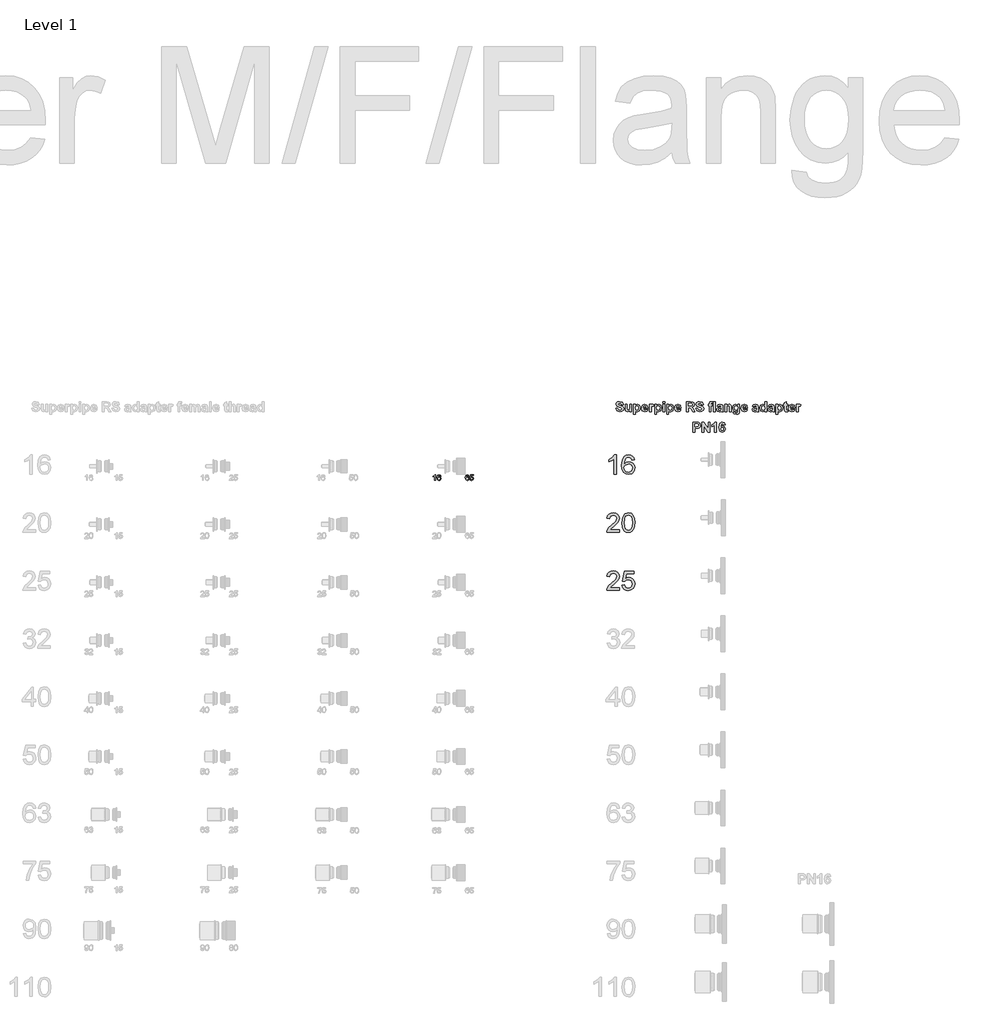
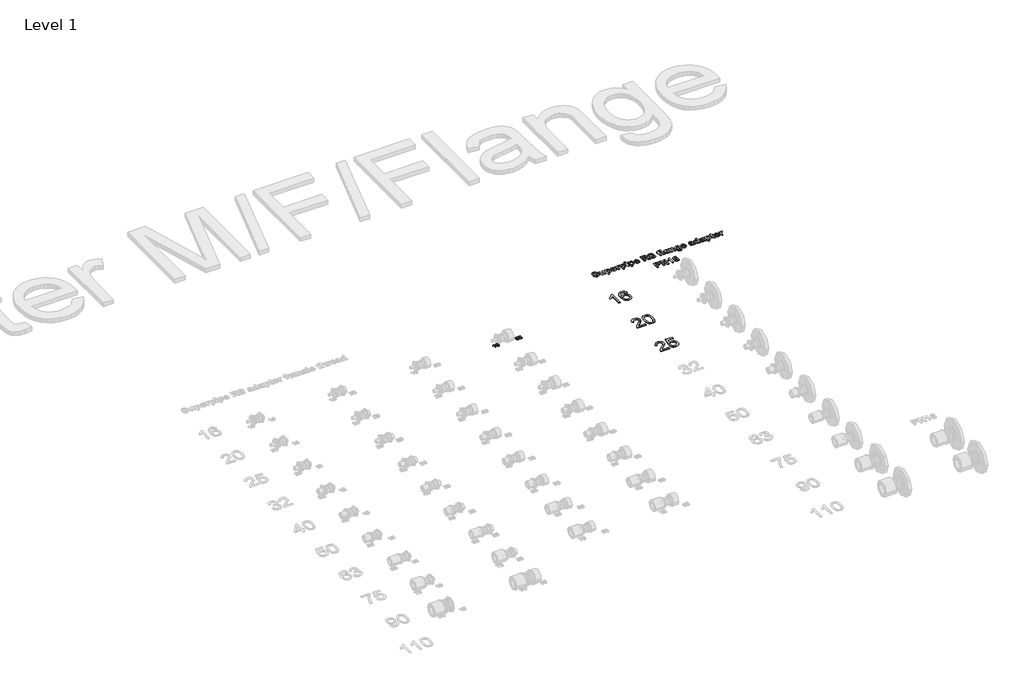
# One storey, part 49 of 58: 7 proxies.
"""IFC4 building model written with IfcOpenShell, lengths in millimetres."""

from ifc_helpers import new_model, si_unit, frame, origin, place, context, project, spatial, polyline, outline, extrude, element, save

model = new_model("IFC4")

# Units and contexts
model_context = context("Model", 3, world=origin())
ifc_project = project(units=[si_unit("LENGTHUNIT", "METRE", prefix="MILLI")], contexts=[model_context])

# Site, building, storey
site = spatial("IfcSite", under=ifc_project)
building = spatial("IfcBuilding", under=site)
storey = spatial("IfcBuildingStorey", under=building, Name="Level 1", Elevation=27.3876384)

# Proxies
placement = place(None, origin())
element("IfcBuildingElementProxy", 1, Name="100mm Arial", ObjectType="100mm Arial", at=placement, inside=storey, context=model_context, shape_type="SweptSolid", body=[
    extrude(outline(polyline([(34351.5703727, 18606.196048), (34339.0133339, 18606.196048), (34339.0133339, 18684.4813365), (34327.1184827, 18676.0077879), (34313.8992564, 18669.6679549), (34313.8992564, 18681.5382806), (34332.3056189, 18693.285979), (34343.4769688, 18706.6523581), (34351.5703727, 18706.6523581), (34351.5703727, 18606.196048)])), frame((0.0, 0.0, 27.3876384), z_axis=(0.0, 0.0, 1.0), x_axis=(1.0, 0.0, 0.0)), (0.0, 0.0, 1.0), 2.0),
    extrude(outline(polyline([(34445.7481635, 18679.9686507), (34433.1911247, 18678.3990209), (34428.4331842, 18688.871395), (34415.85162, 18694.0953193), (34404.5208545, 18691.0541615), (34395.949204, 18679.6375569), (34392.3807487, 18657.2580689), (34403.4539967, 18667.2767219), (34417.1759952, 18670.5508717), (34428.7765407, 18668.3129229), (34438.5131509, 18661.5990764), (34445.1166327, 18651.3413001), (34447.3177933, 18638.4715617), (34443.1729895, 18621.1443197), (34431.7686476, 18608.8815865), (34415.3120597, 18604.6264181), (34401.0658295, 18607.4468468), (34389.7197356, 18615.9081326), (34382.2977163, 18630.8441416), (34379.8237099, 18653.0887396), (34382.5705621, 18678.0985839), (34390.8111188, 18695.1989653), (34402.0621765, 18703.7890099), (34416.6364349, 18706.6523581), (34427.6545007, 18704.8803932), (34436.4775372, 18699.5644983), (34442.6579547, 18691.1216066), (34445.7481635, 18679.9686507)]), holes=[polyline([(34392.3807487, 18638.6677654), (34395.2870164, 18627.7907211), (34403.0125383, 18619.8935209), (34414.3310411, 18617.1834569), (34422.617583, 18618.5875398), (34429.13216, 18622.7997887), (34433.3536059, 18629.4216646), (34434.7607545, 18638.0546288), (34433.372, 18646.3411707), (34429.2057364, 18652.659544), (34422.5807948, 18656.6602607), (34413.8160063, 18657.9938329), (34398.6224799, 18652.659544), (34393.9411815, 18646.4944549), (34392.3807487, 18638.6677654)])]), frame((0.0, 0.0, 27.3876384), z_axis=(0.0, 0.0, 1.0), x_axis=(1.0, 0.0, 0.0)), (0.0, 0.0, 1.0), 2.0),
])
element("IfcBuildingElementProxy", 2, Name="100mm Arial", ObjectType="100mm Arial", at=placement, inside=storey, context=model_context, shape_type="SweptSolid", body=[
    extrude(outline(polyline([(34368.836301, 18318.7530867), (34368.836301, 18306.196048), (34302.9118475, 18306.196048), (34304.2607481, 18314.8535376), (34311.8881681, 18328.1831285), (34327.6089921, 18342.7389928), (34349.2895043, 18363.6592156), (34354.7096324, 18377.8839861), (34349.5960726, 18389.3986925), (34336.2419562, 18394.0953193), (34322.3237541, 18389.5090571), (34317.0385161, 18376.829391), (34304.4814773, 18378.3990209), (34307.5257008, 18390.5452581), (34314.1077228, 18399.4173455), (34323.8841869, 18404.843605), (34336.5117363, 18406.6523581), (34349.2312563, 18404.6412699), (34358.9893263, 18398.6080052), (34365.1973349, 18389.5948963), (34367.2666711, 18378.6442756), (34365.0348537, 18366.7371616), (34357.6159001, 18354.4253775), (34339.6264706, 18337.2207629), (34325.1809709, 18325.1419707), (34319.5155882, 18318.7530867), (34368.836301, 18318.7530867)])), frame((0.0, 0.0, 27.3876384), z_axis=(0.0, 0.0, 1.0), x_axis=(1.0, 0.0, 0.0)), (0.0, 0.0, 1.0), 2.0),
    extrude(outline(polyline([(34381.3933398, 18355.6148627), (34385.0844224, 18384.5181247), (34396.0473059, 18401.1831791), (34414.3555665, 18406.6523581), (34429.0217954, 18403.4149966), (34439.150813, 18394.0830566), (34445.0369249, 18379.220624), (34447.3177933, 18355.6148627), (34443.6634988, 18326.8342279), (34432.7374036, 18310.1323853), (34424.5060439, 18306.0029099), (34414.3555665, 18304.6264181), (34401.3080184, 18307.0176511), (34391.39973, 18314.19135), (34383.8949373, 18331.1813668), (34381.3933398, 18355.6148627)]), holes=[polyline([(34393.9503785, 18355.6393881), (34395.4219065, 18335.8871907), (34399.8364905, 18324.4552577), (34406.4093154, 18319.0014071), (34414.3555665, 18317.1834569), (34422.3018176, 18319.0075385), (34428.8746426, 18324.4797831), (34433.2892265, 18335.9178475), (34434.7607545, 18355.6393881), (34433.3382775, 18374.9470615), (34429.0708463, 18386.4678993), (34422.5102841, 18392.1884643), (34414.2084137, 18394.0953193), (34406.3480018, 18392.4153249), (34400.0326942, 18387.3753416), (34395.4709574, 18375.1371339), (34393.9503785, 18355.6393881)])]), frame((0.0, 0.0, 27.3876384), z_axis=(0.0, 0.0, 1.0), x_axis=(1.0, 0.0, 0.0)), (0.0, 0.0, 1.0), 2.0),
])
element("IfcBuildingElementProxy", 3, Name="100mm Arial", ObjectType="100mm Arial", at=placement, inside=storey, context=model_context, shape_type="SweptSolid", body=[
    extrude(outline(polyline([(34368.836301, 18018.7530867), (34368.836301, 18006.196048), (34302.9118475, 18006.196048), (34304.2607481, 18014.8535376), (34311.8881681, 18028.1831285), (34327.6089921, 18042.7389928), (34349.2895043, 18063.6592156), (34354.7096324, 18077.8839861), (34349.5960726, 18089.3986925), (34336.2419562, 18094.0953193), (34322.3237541, 18089.5090571), (34317.0385161, 18076.829391), (34304.4814773, 18078.3990209), (34307.5257008, 18090.5452581), (34314.1077228, 18099.4173455), (34323.8841869, 18104.843605), (34336.5117363, 18106.6523581), (34349.2312563, 18104.6412699), (34358.9893263, 18098.6080052), (34365.1973349, 18089.5948963), (34367.2666711, 18078.6442756), (34365.0348537, 18066.7371616), (34357.6159001, 18054.4253775), (34339.6264706, 18037.2207629), (34325.1809709, 18025.1419707), (34319.5155882, 18018.7530867), (34368.836301, 18018.7530867)])), frame((0.0, 0.0, 27.3876384), z_axis=(0.0, 0.0, 1.0), x_axis=(1.0, 0.0, 0.0)), (0.0, 0.0, 1.0), 2.0),
    extrude(outline(polyline([(34381.3933398, 18032.8797554), (34393.9503785, 18034.4493852), (34400.2779488, 18021.5122017), (34413.3990733, 18017.1834569), (34422.3999195, 18018.6887074), (34429.1444227, 18023.2044589), (34433.3566716, 18030.2095452), (34434.7607545, 18039.1828002), (34429.500042, 18054.0942837), (34422.8934945, 18058.196168), (34413.5952771, 18059.5634627), (34402.57108, 18057.3806962), (34395.5200084, 18051.7153135), (34382.9629696, 18053.2849434), (34393.9503785, 18105.0827283), (34442.6089038, 18105.0827283), (34442.6089038, 18092.5256895), (34404.1039216, 18092.5256895), (34398.7328445, 18064.8609635), (34407.7030338, 18070.305617), (34417.1024188, 18072.1205015), (34428.8347887, 18069.87029), (34438.5744645, 18063.1196554), (34445.1319611, 18052.8312222), (34447.3177933, 18039.9676151), (34445.3496246, 18027.4105764), (34439.4451186, 18016.6684221), (34428.1388786, 18007.6369191), (34413.3500224, 18004.6264181), (34401.0167785, 18006.5608643), (34391.1912636, 18012.3642028), (34384.4559574, 18021.3619832), (34381.3933398, 18032.8797554)])), frame((0.0, 0.0, 27.3876384), z_axis=(0.0, 0.0, 1.0), x_axis=(1.0, 0.0, 0.0)), (0.0, 0.0, 1.0), 2.0),
])
element("IfcBuildingElementProxy", 4, Name="30mm Arial", ObjectType="30mm Arial", at=placement, inside=storey, context=model_context, shape_type="SweptSolid", body=[
    extrude(outline(polyline([(33416.6620986, 18573.5788539), (33412.894987, 18573.5788539), (33412.894987, 18597.0644405), (33409.3265317, 18594.5223759), (33405.3607637, 18592.620426), (33405.3607637, 18596.1815237), (33410.8826725, 18599.7058332), (33414.2340775, 18603.715747), (33416.6620986, 18603.715747), (33416.6620986, 18573.5788539)])), frame((0.0, 0.0, 27.3876384), z_axis=(0.0, 0.0, 1.0), x_axis=(1.0, 0.0, 0.0)), (0.0, 0.0, 1.0), 2.0),
    extrude(outline(polyline([(33444.9154359, 18595.7106348), (33441.1483242, 18595.2397458), (33439.7209421, 18598.381458), (33435.9464728, 18599.9486353), (33432.5472432, 18599.036288), (33429.975748, 18595.6113066), (33428.9052114, 18588.8974602), (33432.2271859, 18591.9030561), (33436.3437854, 18592.885301), (33442.7449321, 18590.1997625), (33445.3863248, 18583.261508), (33444.1428837, 18578.0633355), (33440.7215811, 18574.3845155), (33435.7846047, 18573.107965), (33428.1069075, 18576.4924793), (33425.1380998, 18587.6466614), (33428.4343225, 18600.2797291), (33436.1819173, 18603.715747), (33442.134248, 18601.589389), (33444.9154359, 18595.7106348)]), holes=[polyline([(33428.9052114, 18583.3203692), (33429.7770918, 18580.0572559), (33432.0947483, 18577.6880958), (33435.4902992, 18576.8750766), (33439.9306348, 18578.5599761), (33441.6192132, 18583.1364282), (33439.9527078, 18587.5179027), (33435.3357887, 18589.1181894), (33430.7777308, 18587.5179027), (33428.9052114, 18583.3203692)])]), frame((0.0, 0.0, 27.3876384), z_axis=(0.0, 0.0, 1.0), x_axis=(1.0, 0.0, 0.0)), (0.0, 0.0, 1.0), 2.0),
])
element("IfcBuildingElementProxy", 5, Name="30mm Arial", ObjectType="30mm Arial", at=placement, inside=storey, context=model_context, shape_type="SweptSolid", body=[
    extrude(outline(polyline([(33590.5918771, 18595.7106348), (33586.8247655, 18595.2397458), (33585.3973834, 18598.381458), (33581.6229141, 18599.9486353), (33578.2236845, 18599.036288), (33575.6521893, 18595.6113066), (33574.5816527, 18588.8974602), (33577.9036271, 18591.9030561), (33582.0202266, 18592.885301), (33588.4213734, 18590.1997625), (33591.0627661, 18583.261508), (33589.8193249, 18578.0633355), (33586.3980224, 18574.3845155), (33581.461046, 18573.107965), (33573.7833488, 18576.4924793), (33570.8145411, 18587.6466614), (33574.1107637, 18600.2797291), (33581.8583586, 18603.715747), (33587.8106892, 18601.589389), (33590.5918771, 18595.7106348)]), holes=[polyline([(33574.5816527, 18583.3203692), (33575.453533, 18580.0572559), (33577.7711896, 18577.6880958), (33581.1667404, 18576.8750766), (33585.6070761, 18578.5599761), (33587.2956545, 18583.1364282), (33585.629149, 18587.5179027), (33581.01223, 18589.1181894), (33576.4541721, 18587.5179027), (33574.5816527, 18583.3203692)])]), frame((0.0, 0.0, 27.3876384), z_axis=(0.0, 0.0, 1.0), x_axis=(1.0, 0.0, 0.0)), (0.0, 0.0, 1.0), 2.0),
    extrude(outline(polyline([(33594.3589888, 18581.5839661), (33598.1261004, 18582.0548551), (33600.0243715, 18578.1737001), (33603.9607088, 18576.8750766), (33608.6843137, 18578.6813772), (33610.3692132, 18583.4748796), (33608.7909994, 18587.9483247), (33604.01957, 18589.5890784), (33600.7123108, 18588.9342484), (33598.5969893, 18587.2346336), (33594.8298777, 18587.7055225), (33598.1261004, 18603.244858), (33612.723658, 18603.244858), (33612.723658, 18599.4777464), (33601.1721633, 18599.4777464), (33599.5608402, 18591.1783286), (33605.0717125, 18593.35619), (33611.5133262, 18590.6559361), (33614.1363248, 18583.7103241), (33611.7745224, 18576.7205662), (33603.9459936, 18573.107965), (33597.2983659, 18575.4293004), (33594.3589888, 18581.5839661)])), frame((0.0, 0.0, 27.3876384), z_axis=(0.0, 0.0, 1.0), x_axis=(1.0, 0.0, 0.0)), (0.0, 0.0, 1.0), 2.0),
])
element("IfcBuildingElementProxy", 6, Name="50mm Arial", ObjectType="50mm Arial", at=placement, inside=storey, context=model_context, shape_type="SweptSolid", body=[
    extrude(outline(polyline([(34348.9770616, 18946.5014095), (34358.6938178, 18947.3111392), (34362.4894257, 18939.9476599), (34370.1945097, 18937.594383), (34377.9502018, 18939.6756413), (34380.5565192, 18944.5403454), (34379.4747709, 18947.5831577), (34375.6854891, 18949.7656323), (34367.2592396, 18951.9291288), (34355.3916389, 18956.9013751), (34350.5965209, 18967.1368644), (34352.7979735, 18974.3991274), (34359.1492907, 18979.5485021), (34369.1570435, 18981.3197858), (34383.5740275, 18976.9042286), (34388.653816, 18965.1251922), (34378.9370598, 18965.1251922), (34376.0081157, 18970.7110618), (34369.2709117, 18972.4127593), (34362.0086487, 18970.6035196), (34360.3132771, 18967.4911211), (34361.8568243, 18964.4419828), (34371.3774741, 18961.1208258), (34382.5555393, 18957.5276504), (34388.2236471, 18952.3846017), (34390.2732754, 18944.325261), (34387.8504124, 18936.177356), (34380.9930141, 18930.5345523), (34369.9414691, 18928.6873565), (34355.1385984, 18933.2357599), (34348.9770616, 18946.5014095)])), frame((0.0, 0.0, 27.3876384), z_axis=(0.0, 0.0, 1.0), x_axis=(1.0, 0.0, 0.0)), (0.0, 0.0, 1.0), 2.0),
    extrude(outline(polyline([(34421.852733, 18929.4970861), (34421.852733, 18934.9627615), (34416.7729444, 18930.3637499), (34410.1243046, 18928.6873565), (34403.7350314, 18930.3321199), (34399.6357748, 18934.9564355), (34398.3705722, 18943.1992306), (34398.3705722, 18966.7446515), (34408.0873284, 18966.7446515), (34408.0873284, 18949.5252438), (34408.6123875, 18939.8401176), (34410.5354955, 18937.0187158), (34414.0843889, 18935.9749236), (34418.480968, 18937.3666465), (34421.1378935, 18940.8269757), (34421.852733, 18950.9422707), (34421.852733, 18966.7446515), (34431.5694892, 18966.7446515), (34431.5694892, 18929.4970861), (34421.852733, 18929.4970861)])), frame((0.0, 0.0, 27.3876384), z_axis=(0.0, 0.0, 1.0), x_axis=(1.0, 0.0, 0.0)), (0.0, 0.0, 1.0), 2.0),
    extrude(outline(polyline([(34441.2862454, 18966.7446515), (34451.0030016, 18966.7446515), (34451.0030016, 18961.3801924), (34455.6209912, 18965.8463577), (34462.0861766, 18967.5543812), (34472.5936844, 18962.4745927), (34476.9143514, 18948.3359533), (34472.4545121, 18933.8493832), (34461.6433557, 18928.6873565), (34456.1650283, 18929.889299), (34451.0030016, 18934.0138595), (34451.0030016, 18915.7316815), (34441.2862454, 18915.7316815), (34441.2862454, 18966.7446515)]), holes=[polyline([(34451.0030016, 18948.7661222), (34453.4385166, 18939.0999741), (34459.378643, 18935.9749236), (34464.9645126, 18938.8406076), (34467.1975952, 18948.2473891), (34464.9012525, 18957.3062399), (34459.2015146, 18960.2668141), (34453.3373004, 18957.363174), (34451.0030016, 18948.7661222)])]), frame((0.0, 0.0, 27.3876384), z_axis=(0.0, 0.0, 1.0), x_axis=(1.0, 0.0, 0.0)), (0.0, 0.0, 1.0), 2.0),
    extrude(outline(polyline([(34505.2548903, 18940.8333017), (34514.9716465, 18939.2138423), (34509.1770185, 18931.375912), (34499.2704819, 18928.6873565), (34491.0814579, 18930.2720228), (34485.3406009, 18935.0260216), (34481.7727295, 18947.8425243), (34486.5045873, 18962.3164423), (34498.4734042, 18967.5543812), (34511.2899068, 18962.17727), (34515.7813762, 18945.6916798), (34491.4894857, 18945.6916798), (34493.7795025, 18938.5306329), (34499.2325258, 18935.9749236), (34502.9648735, 18937.126258), (34505.2548903, 18940.8333017)]), holes=[polyline([(34506.06462, 18951.3597876), (34503.9011235, 18957.9957754), (34498.8909211, 18960.2668141), (34493.6782862, 18957.8755811), (34491.653962, 18951.3597876), (34506.06462, 18951.3597876)])]), frame((0.0, 0.0, 27.3876384), z_axis=(0.0, 0.0, 1.0), x_axis=(1.0, 0.0, 0.0)), (0.0, 0.0, 1.0), 2.0),
    extrude(outline(polyline([(34532.7856995, 18929.4970861), (34523.0689433, 18929.4970861), (34523.0689433, 18966.7446515), (34532.7856995, 18966.7446515), (34532.7856995, 18961.5573208), (34536.6698716, 18966.3967208), (34540.5919997, 18967.5543812), (34546.5511041, 18965.504753), (34543.7170502, 18956.2561217), (34539.2129289, 18957.837625), (34535.7905558, 18956.7305727), (34533.5891032, 18952.7388584), (34532.7856995, 18940.6435213), (34532.7856995, 18929.4970861)])), frame((0.0, 0.0, 27.3876384), z_axis=(0.0, 0.0, 1.0), x_axis=(1.0, 0.0, 0.0)), (0.0, 0.0, 1.0), 2.0),
    extrude(outline(polyline([(34550.5997525, 18966.7446515), (34560.3165087, 18966.7446515), (34560.3165087, 18961.3801924), (34564.9344983, 18965.8463577), (34571.3996837, 18967.5543812), (34581.9071916, 18962.4745927), (34586.2278586, 18948.3359533), (34581.7680193, 18933.8493832), (34570.9568628, 18928.6873565), (34565.4785354, 18929.889299), (34560.3165087, 18934.0138595), (34560.3165087, 18915.7316815), (34550.5997525, 18915.7316815), (34550.5997525, 18966.7446515)]), holes=[polyline([(34560.3165087, 18948.7661222), (34562.7520238, 18939.0999741), (34568.6921501, 18935.9749236), (34574.2780197, 18938.8406076), (34576.5111024, 18948.2473891), (34574.2147596, 18957.3062399), (34568.5150217, 18960.2668141), (34562.6508076, 18957.363174), (34560.3165087, 18948.7661222)])]), frame((0.0, 0.0, 27.3876384), z_axis=(0.0, 0.0, 1.0), x_axis=(1.0, 0.0, 0.0)), (0.0, 0.0, 1.0), 2.0),
    extrude(outline(polyline([(34593.5154257, 18929.4970861), (34593.5154257, 18966.7446515), (34603.2321819, 18966.7446515), (34603.2321819, 18929.4970861), (34593.5154257, 18929.4970861)])), frame((0.0, 0.0, 27.3876384), z_axis=(0.0, 0.0, 1.0), x_axis=(1.0, 0.0, 0.0)), (0.0, 0.0, 1.0), 2.0),
    extrude(outline(polyline([(34593.5154257, 18971.6030296), (34593.5154257, 18980.5100561), (34603.2321819, 18980.5100561), (34603.2321819, 18971.6030296), (34593.5154257, 18971.6030296)])), frame((0.0, 0.0, 27.3876384), z_axis=(0.0, 0.0, 1.0), x_axis=(1.0, 0.0, 0.0)), (0.0, 0.0, 1.0), 2.0),
    extrude(outline(polyline([(34612.9489381, 18966.7446515), (34622.6656943, 18966.7446515), (34622.6656943, 18961.3801924), (34627.2836839, 18965.8463577), (34633.7488693, 18967.5543812), (34644.2563771, 18962.4745927), (34648.5770441, 18948.3359533), (34644.1172048, 18933.8493832), (34633.3060484, 18928.6873565), (34627.827721, 18929.889299), (34622.6656943, 18934.0138595), (34622.6656943, 18915.7316815), (34612.9489381, 18915.7316815), (34612.9489381, 18966.7446515)]), holes=[polyline([(34622.6656943, 18948.7661222), (34625.1012093, 18939.0999741), (34631.0413357, 18935.9749236), (34636.6272053, 18938.8406076), (34638.8602879, 18948.2473891), (34636.5639451, 18957.3062399), (34630.8642073, 18960.2668141), (34624.9999931, 18957.363174), (34622.6656943, 18948.7661222)])]), frame((0.0, 0.0, 27.3876384), z_axis=(0.0, 0.0, 1.0), x_axis=(1.0, 0.0, 0.0)), (0.0, 0.0, 1.0), 2.0),
    extrude(outline(polyline([(34676.917583, 18940.8333017), (34686.6343392, 18939.2138423), (34680.8397111, 18931.375912), (34670.9331746, 18928.6873565), (34662.7441505, 18930.2720228), (34657.0032936, 18935.0260216), (34653.4354222, 18947.8425243), (34658.16728, 18962.3164423), (34670.1360969, 18967.5543812), (34682.9525995, 18962.17727), (34687.4440689, 18945.6916798), (34663.1521784, 18945.6916798), (34665.4421951, 18938.5306329), (34670.8952185, 18935.9749236), (34674.6275662, 18937.126258), (34676.917583, 18940.8333017)]), holes=[polyline([(34677.7273127, 18951.3597876), (34675.5638162, 18957.9957754), (34670.5536138, 18960.2668141), (34665.3409789, 18957.8755811), (34663.3166547, 18951.3597876), (34677.7273127, 18951.3597876)])]), frame((0.0, 0.0, 27.3876384), z_axis=(0.0, 0.0, 1.0), x_axis=(1.0, 0.0, 0.0)), (0.0, 0.0, 1.0), 2.0),
    extrude(outline(polyline([(34714.1651484, 18929.4970861), (34714.1651484, 18980.5100561), (34735.622985, 18980.5100561), (34747.3893694, 18979.1309853), (34753.2599096, 18974.2219991), (34755.4613622, 18966.1373543), (34752.2793776, 18956.6103785), (34742.7587278, 18951.8785206), (34747.8574944, 18947.6274398), (34753.2725616, 18939.3909707), (34759.5100106, 18929.4970861), (34748.161143, 18929.4970861), (34740.7723597, 18941.1496024), (34734.9714056, 18948.0639347), (34731.6565747, 18950.0186728), (34726.1086612, 18950.5500579), (34723.8819046, 18950.5500579), (34723.8819046, 18929.4970861), (34714.1651484, 18929.4970861)]), holes=[polyline([(34723.8819046, 18959.4570844), (34731.8906372, 18959.4570844), (34741.6137194, 18960.0454036), (34744.6502057, 18962.0697278), (34745.744606, 18965.6565773), (34744.302275, 18969.5597274), (34740.2283225, 18971.4385533), (34732.3334581, 18971.6030296), (34723.8819046, 18971.6030296), (34723.8819046, 18959.4570844)])]), frame((0.0, 0.0, 27.3876384), z_axis=(0.0, 0.0, 1.0), x_axis=(1.0, 0.0, 0.0)), (0.0, 0.0, 1.0), 2.0),
    extrude(outline(polyline([(34762.7489293, 18946.5014095), (34772.4656855, 18947.3111392), (34776.2612934, 18939.9476599), (34783.9663774, 18937.594383), (34791.7220695, 18939.6756413), (34794.328387, 18944.5403454), (34793.2466387, 18947.5831577), (34789.4573568, 18949.7656323), (34781.0311073, 18951.9291288), (34769.1635067, 18956.9013751), (34764.3683887, 18967.1368644), (34766.5698413, 18974.3991274), (34772.9211585, 18979.5485021), (34782.9289113, 18981.3197858), (34797.3458952, 18976.9042286), (34802.4256838, 18965.1251922), (34792.7089276, 18965.1251922), (34789.7799835, 18970.7110618), (34783.0427795, 18972.4127593), (34775.7805164, 18970.6035196), (34774.0851449, 18967.4911211), (34775.6286921, 18964.4419828), (34785.1493419, 18961.1208258), (34796.3274071, 18957.5276504), (34801.9955149, 18952.3846017), (34804.0451431, 18944.325261), (34801.6222801, 18936.177356), (34794.7648819, 18930.5345523), (34783.7133369, 18928.6873565), (34768.9104661, 18933.2357599), (34762.7489293, 18946.5014095)])), frame((0.0, 0.0, 27.3876384), z_axis=(0.0, 0.0, 1.0), x_axis=(1.0, 0.0, 0.0)), (0.0, 0.0, 1.0), 2.0),
    extrude(outline(polyline([(34827.5273039, 18966.7446515), (34832.385682, 18966.7446515), (34832.385682, 18969.4648372), (34833.3725401, 18976.2589753), (34837.0036716, 18979.9090849), (34843.6965935, 18981.3197858), (34851.8191944, 18980.1051913), (34850.6045999, 18973.4881815), (34846.0878265, 18974.0322187), (34843.0323622, 18973.0580127), (34842.1024382, 18969.3130129), (34842.1024382, 18966.7446515), (34849.3900054, 18966.7446515), (34849.3900054, 18959.4570844), (34842.1024382, 18959.4570844), (34842.1024382, 18929.4970861), (34832.385682, 18929.4970861), (34832.385682, 18959.4570844), (34827.5273039, 18959.4570844), (34827.5273039, 18966.7446515)])), frame((0.0, 0.0, 27.3876384), z_axis=(0.0, 0.0, 1.0), x_axis=(1.0, 0.0, 0.0)), (0.0, 0.0, 1.0), 2.0),
    extrude(outline(polyline([(34855.0581131, 18929.4970861), (34855.0581131, 18980.5100561), (34864.7748693, 18980.5100561), (34864.7748693, 18929.4970861), (34855.0581131, 18929.4970861)])), frame((0.0, 0.0, 27.3876384), z_axis=(0.0, 0.0, 1.0), x_axis=(1.0, 0.0, 0.0)), (0.0, 0.0, 1.0), 2.0),
    extrude(outline(polyline([(34882.5889223, 18955.408436), (34873.6818958, 18957.0278953), (34878.571904, 18964.9733679), (34888.8769794, 18967.5543812), (34898.1256106, 18965.991856), (34902.4019955, 18962.0317717), (34903.6418941, 18953.2196354), (34903.6418941, 18941.7315956), (34904.1543012, 18934.4946365), (34906.0710831, 18929.4970861), (34896.354327, 18929.4970861), (34895.4433811, 18932.5841806), (34889.9017935, 18929.9715371), (34883.9932973, 18928.6873565), (34875.2570731, 18931.8060809), (34872.0624365, 18939.6819673), (34873.4857894, 18945.299467), (34877.4775037, 18949.0824228), (34884.8789391, 18951.3724396), (34893.9251379, 18953.7889766), (34892.7168694, 18959.0142635), (34888.1684659, 18960.2668141), (34884.6385506, 18959.1913918), (34882.5889223, 18955.408436)]), holes=[polyline([(34893.9251379, 18946.5014095), (34888.4468105, 18945.1539687), (34883.5378243, 18943.6167475), (34881.7791927, 18940.517001), (34883.1898936, 18937.3223644), (34886.7767431, 18935.9749236), (34891.4200367, 18937.5437749), (34893.5708812, 18940.4537409), (34893.9251379, 18944.7427778), (34893.9251379, 18946.5014095)])]), frame((0.0, 0.0, 27.3876384), z_axis=(0.0, 0.0, 1.0), x_axis=(1.0, 0.0, 0.0)), (0.0, 0.0, 1.0), 2.0),
    extrude(outline(polyline([(34946.5575673, 18929.4970861), (34936.8408111, 18929.4970861), (34936.8408111, 18948.6396019), (34936.2335138, 18956.5091623), (34934.2471457, 18959.279956), (34930.9449668, 18960.2668141), (34926.4977796, 18958.8561131), (34923.802898, 18955.1111134), (34923.0754065, 18946.4887574), (34923.0754065, 18929.4970861), (34913.3586503, 18929.4970861), (34913.3586503, 18966.7446515), (34923.0754065, 18966.7446515), (34923.0754065, 18961.3801924), (34928.2912043, 18966.010834), (34934.7026186, 18967.5543812), (34940.3454224, 18966.3777428), (34944.2169424, 18963.3792125), (34946.0451602, 18959.248326), (34946.5575673, 18952.6249902), (34946.5575673, 18929.4970861)])), frame((0.0, 0.0, 27.3876384), z_axis=(0.0, 0.0, 1.0), x_axis=(1.0, 0.0, 0.0)), (0.0, 0.0, 1.0), 2.0),
    extrude(outline(polyline([(34955.4456157, 18926.4985559), (34966.8008093, 18925.4484377), (34968.0027518, 18923.1204649), (34972.1146604, 18922.209519), (34977.5044236, 18923.3608534), (34979.3263154, 18925.8533026), (34979.7564842, 18930.382728), (34979.7564842, 18935.8104473), (34968.5088329, 18929.4970861), (34962.0721145, 18931.0817524), (34957.1346612, 18935.8357513), (34953.8451344, 18948.3106492), (34958.1531494, 18962.613765), (34968.8757416, 18967.5543812), (34979.7564842, 18961.696493), (34979.7564842, 18966.7446515), (34989.4732404, 18966.7446515), (34989.4732404, 18933.6596028), (34988.4167962, 18923.9112165), (34985.4562221, 18918.84408), (34980.3701075, 18915.965744), (34972.3170928, 18914.9219519), (34959.2728537, 18918.0343503), (34955.4456157, 18926.4985559)]), holes=[polyline([(34963.5618906, 18948.677558), (34965.8076253, 18939.6440112), (34971.3555388, 18936.7846533), (34977.3209692, 18939.7199234), (34979.7564842, 18948.4118654), (34977.4221854, 18957.350522), (34971.5200151, 18960.2668141), (34965.8076253, 18957.4074561), (34963.5618906, 18948.677558)])]), frame((0.0, 0.0, 27.3876384), z_axis=(0.0, 0.0, 1.0), x_axis=(1.0, 0.0, 0.0)), (0.0, 0.0, 1.0), 2.0),
    extrude(outline(polyline([(35020.2429684, 18940.8333017), (35029.9597246, 18939.2138423), (35024.1650965, 18931.375912), (35014.2585599, 18928.6873565), (35006.0695359, 18930.2720228), (35000.328679, 18935.0260216), (34996.7608076, 18947.8425243), (35001.4926654, 18962.3164423), (35013.4614823, 18967.5543812), (35026.2779849, 18962.17727), (35030.7694542, 18945.6916798), (35006.4775638, 18945.6916798), (35008.7675805, 18938.5306329), (35014.2206039, 18935.9749236), (35017.9529516, 18937.126258), (35020.2429684, 18940.8333017)]), holes=[polyline([(35021.0526981, 18951.3597876), (35018.8892016, 18957.9957754), (35013.8789992, 18960.2668141), (35008.6663643, 18957.8755811), (35006.6420401, 18951.3597876), (35021.0526981, 18951.3597876)])]), frame((0.0, 0.0, 27.3876384), z_axis=(0.0, 0.0, 1.0), x_axis=(1.0, 0.0, 0.0)), (0.0, 0.0, 1.0), 2.0),
    extrude(outline(polyline([(35065.5878306, 18955.408436), (35056.6808041, 18957.0278953), (35061.5708122, 18964.9733679), (35071.8758877, 18967.5543812), (35081.1245189, 18965.991856), (35085.4009038, 18962.0317717), (35086.6408023, 18953.2196354), (35086.6408023, 18941.7315956), (35087.1532094, 18934.4946365), (35089.0699914, 18929.4970861), (35079.3532352, 18929.4970861), (35078.4422893, 18932.5841806), (35072.9007018, 18929.9715371), (35066.9922055, 18928.6873565), (35058.2559814, 18931.8060809), (35055.0613447, 18939.6819673), (35056.4846977, 18945.299467), (35060.476412, 18949.0824228), (35067.8778474, 18951.3724396), (35076.9240462, 18953.7889766), (35075.7157776, 18959.0142635), (35071.1673742, 18960.2668141), (35067.6374589, 18959.1913918), (35065.5878306, 18955.408436)]), holes=[polyline([(35076.9240462, 18946.5014095), (35071.4457188, 18945.1539687), (35066.5367326, 18943.6167475), (35064.7781009, 18940.517001), (35066.1888018, 18937.3223644), (35069.7756513, 18935.9749236), (35074.4189449, 18937.5437749), (35076.5697894, 18940.4537409), (35076.9240462, 18944.7427778), (35076.9240462, 18946.5014095)])]), frame((0.0, 0.0, 27.3876384), z_axis=(0.0, 0.0, 1.0), x_axis=(1.0, 0.0, 0.0)), (0.0, 0.0, 1.0), 2.0),
    extrude(outline(polyline([(35129.5564755, 18929.4970861), (35119.8397193, 18929.4970861), (35119.8397193, 18934.8615453), (35114.7093227, 18930.2119256), (35108.7565443, 18928.6873565), (35098.2869925, 18933.8493832), (35093.9283695, 18948.2600411), (35098.2806665, 18962.632743), (35109.2879294, 18967.5543812), (35119.8397193, 18962.4556146), (35119.8397193, 18980.5100561), (35129.5564755, 18980.5100561), (35129.5564755, 18929.4970861)]), holes=[polyline([(35103.6451257, 18948.8293823), (35105.264585, 18939.9476599), (35111.8056826, 18935.9749236), (35117.4990945, 18938.9544758), (35119.8397193, 18947.8551763), (35117.5686806, 18957.363174), (35111.7424225, 18960.2668141), (35105.9730985, 18957.3948041), (35103.6451257, 18948.8293823)])]), frame((0.0, 0.0, 27.3876384), z_axis=(0.0, 0.0, 1.0), x_axis=(1.0, 0.0, 0.0)), (0.0, 0.0, 1.0), 2.0),
    extrude(outline(polyline([(35147.3705285, 18955.408436), (35138.463502, 18957.0278953), (35143.3535102, 18964.9733679), (35153.6585856, 18967.5543812), (35162.9072168, 18965.991856), (35167.1836017, 18962.0317717), (35168.4235003, 18953.2196354), (35168.4235003, 18941.7315956), (35168.9359073, 18934.4946365), (35170.8526893, 18929.4970861), (35161.1359331, 18929.4970861), (35160.2249872, 18932.5841806), (35154.6833997, 18929.9715371), (35148.7749034, 18928.6873565), (35140.0386793, 18931.8060809), (35136.8440427, 18939.6819673), (35138.2673956, 18945.299467), (35142.2591099, 18949.0824228), (35149.6605453, 18951.3724396), (35158.7067441, 18953.7889766), (35157.4984756, 18959.0142635), (35152.9500721, 18960.2668141), (35149.4201568, 18959.1913918), (35147.3705285, 18955.408436)]), holes=[polyline([(35158.7067441, 18946.5014095), (35153.2284167, 18945.1539687), (35148.3194305, 18943.6167475), (35146.5607988, 18940.517001), (35147.9714998, 18937.3223644), (35151.5583492, 18935.9749236), (35156.2016429, 18937.5437749), (35158.3524873, 18940.4537409), (35158.7067441, 18944.7427778), (35158.7067441, 18946.5014095)])]), frame((0.0, 0.0, 27.3876384), z_axis=(0.0, 0.0, 1.0), x_axis=(1.0, 0.0, 0.0)), (0.0, 0.0, 1.0), 2.0),
    extrude(outline(polyline([(35178.1402565, 18966.7446515), (35187.8570127, 18966.7446515), (35187.8570127, 18961.3801924), (35192.4750022, 18965.8463577), (35198.9401877, 18967.5543812), (35209.4476955, 18962.4745927), (35213.7683625, 18948.3359533), (35209.3085232, 18933.8493832), (35198.4973668, 18928.6873565), (35193.0190394, 18929.889299), (35187.8570127, 18934.0138595), (35187.8570127, 18915.7316815), (35178.1402565, 18915.7316815), (35178.1402565, 18966.7446515)]), holes=[polyline([(35187.8570127, 18948.7661222), (35190.2925277, 18939.0999741), (35196.2326541, 18935.9749236), (35201.8185237, 18938.8406076), (35204.0516063, 18948.2473891), (35201.7552635, 18957.3062399), (35196.0555257, 18960.2668141), (35190.1913115, 18957.363174), (35187.8570127, 18948.7661222)])]), frame((0.0, 0.0, 27.3876384), z_axis=(0.0, 0.0, 1.0), x_axis=(1.0, 0.0, 0.0)), (0.0, 0.0, 1.0), 2.0),
    extrude(outline(polyline([(35238.8699827, 18966.7446515), (35238.8699827, 18959.4570844), (35231.5824155, 18959.4570844), (35231.5824155, 18943.4775752), (35231.803826, 18937.8284455), (35232.8096621, 18936.4999827), (35234.720118, 18935.9749236), (35239.2748475, 18936.9111735), (35239.6797123, 18930.0031672), (35231.7215878, 18928.6873565), (35226.8126016, 18929.5983024), (35223.6053129, 18931.9515792), (35222.18196, 18935.8610554), (35221.8656593, 18942.9335381), (35221.8656593, 18959.4570844), (35217.0072812, 18959.4570844), (35217.0072812, 18966.7446515), (35221.8656593, 18966.7446515), (35221.8656593, 18974.0322187), (35231.5824155, 18979.7003265), (35231.5824155, 18966.7446515), (35238.8699827, 18966.7446515)])), frame((0.0, 0.0, 27.3876384), z_axis=(0.0, 0.0, 1.0), x_axis=(1.0, 0.0, 0.0)), (0.0, 0.0, 1.0), 2.0),
    extrude(outline(polyline([(35265.5910622, 18940.8333017), (35275.3078184, 18939.2138423), (35269.5131903, 18931.375912), (35259.6066537, 18928.6873565), (35251.4176297, 18930.2720228), (35245.6767728, 18935.0260216), (35242.1089014, 18947.8425243), (35246.8407592, 18962.3164423), (35258.8095761, 18967.5543812), (35271.6260787, 18962.17727), (35276.117548, 18945.6916798), (35251.8256576, 18945.6916798), (35254.1156743, 18938.5306329), (35259.5686977, 18935.9749236), (35263.3010454, 18937.126258), (35265.5910622, 18940.8333017)]), holes=[polyline([(35266.4007919, 18951.3597876), (35264.2372954, 18957.9957754), (35259.227093, 18960.2668141), (35254.0144581, 18957.8755811), (35251.9901339, 18951.3597876), (35266.4007919, 18951.3597876)])]), frame((0.0, 0.0, 27.3876384), z_axis=(0.0, 0.0, 1.0), x_axis=(1.0, 0.0, 0.0)), (0.0, 0.0, 1.0), 2.0),
    extrude(outline(polyline([(35293.1218714, 18929.4970861), (35283.4051152, 18929.4970861), (35283.4051152, 18966.7446515), (35293.1218714, 18966.7446515), (35293.1218714, 18961.5573208), (35297.0060434, 18966.3967208), (35300.9281716, 18967.5543812), (35306.887276, 18965.504753), (35304.0532221, 18956.2561217), (35299.5491007, 18957.837625), (35296.1267276, 18956.7305727), (35293.925275, 18952.7388584), (35293.1218714, 18940.6435213), (35293.1218714, 18929.4970861)])), frame((0.0, 0.0, 27.3876384), z_axis=(0.0, 0.0, 1.0), x_axis=(1.0, 0.0, 0.0)), (0.0, 0.0, 1.0), 2.0),
])
element("IfcBuildingElementProxy", 7, Name="50mm Arial", ObjectType="50mm Arial", at=placement, inside=storey, context=model_context, shape_type="SweptSolid", body=[
    extrude(outline(polyline([(34748.5699929, 18823.7542645), (34748.5699929, 18874.7672345), (34765.0049751, 18874.7672345), (34777.1888764, 18874.0081129), (34784.4954216, 18869.0421926), (34787.4370177, 18859.1672861), (34785.7100161, 18851.3167038), (34781.319763, 18846.3191534), (34775.9110217, 18843.9089424), (34765.0935393, 18843.1877769), (34758.2867491, 18843.1877769), (34758.2867491, 18823.7542645), (34748.5699929, 18823.7542645)]), holes=[polyline([(34758.2867491, 18865.860208), (34758.2867491, 18852.0948034), (34764.3217657, 18852.0948034), (34773.0326858, 18852.853925), (34776.4740369, 18855.2388319), (34777.7202615, 18859.0154618), (34775.9679559, 18863.3804108), (34771.5460727, 18865.5312553), (34763.6132522, 18865.860208), (34758.2867491, 18865.860208)])]), frame((0.0, 0.0, 27.3876384), z_axis=(0.0, 0.0, 1.0), x_axis=(1.0, 0.0, 0.0)), (0.0, 0.0, 1.0), 2.0),
    extrude(outline(polyline([(34795.5343145, 18823.7542645), (34795.5343145, 18874.7672345), (34805.7191957, 18874.7672345), (34827.1137721, 18840.4296351), (34827.1137721, 18874.7672345), (34836.8305283, 18874.7672345), (34836.8305283, 18823.7542645), (34826.3293465, 18823.7542645), (34805.2510707, 18857.5857828), (34805.2510707, 18823.7542645), (34795.5343145, 18823.7542645)])), frame((0.0, 0.0, 27.3876384), z_axis=(0.0, 0.0, 1.0), x_axis=(1.0, 0.0, 0.0)), (0.0, 0.0, 1.0), 2.0),
    extrude(outline(polyline([(34869.2197156, 18823.7542645), (34859.5029594, 18823.7542645), (34859.5029594, 18860.2174043), (34847.3570142, 18852.0948034), (34847.3570142, 18861.8115596), (34855.4669631, 18866.5750475), (34861.4766755, 18874.7672345), (34869.2197156, 18874.7672345), (34869.2197156, 18823.7542645)])), frame((0.0, 0.0, 27.3876384), z_axis=(0.0, 0.0, 1.0), x_axis=(1.0, 0.0, 0.0)), (0.0, 0.0, 1.0), 2.0),
    extrude(outline(polyline([(34915.3743075, 18861.2295664), (34905.6575513, 18860.1921002), (34903.9368758, 18864.4748111), (34900.3183962, 18865.860208), (34895.3334979, 18863.1716524), (34892.7651366, 18851.8797189), (34901.646859, 18856.1434518), (34911.9139783, 18851.5887223), (34916.1840372, 18839.8349899), (34911.8190881, 18827.5688504), (34900.5967408, 18822.9445348), (34893.9101449, 18824.4374739), (34888.5267077, 18828.9162912), (34884.9778144, 18836.7953406), (34883.7948499, 18848.4889759), (34885.030004, 18860.4957488), (34888.7354662, 18868.6056977), (34894.4146445, 18873.2268503), (34901.5709469, 18874.7672345), (34910.7436659, 18871.3005793), (34915.3743075, 18861.2295664)]), holes=[polyline([(34893.5116061, 18840.0500744), (34895.6118425, 18833.9834278), (34900.4069604, 18831.8515613), (34904.7339534, 18833.597541), (34906.467281, 18839.3289089), (34904.6011071, 18845.3322953), (34899.9388355, 18847.2364253), (34895.37778, 18845.4145335), (34893.5116061, 18840.0500744)])]), frame((0.0, 0.0, 27.3876384), z_axis=(0.0, 0.0, 1.0), x_axis=(1.0, 0.0, 0.0)), (0.0, 0.0, 1.0), 2.0),
])

save(model, "model.ifc")
